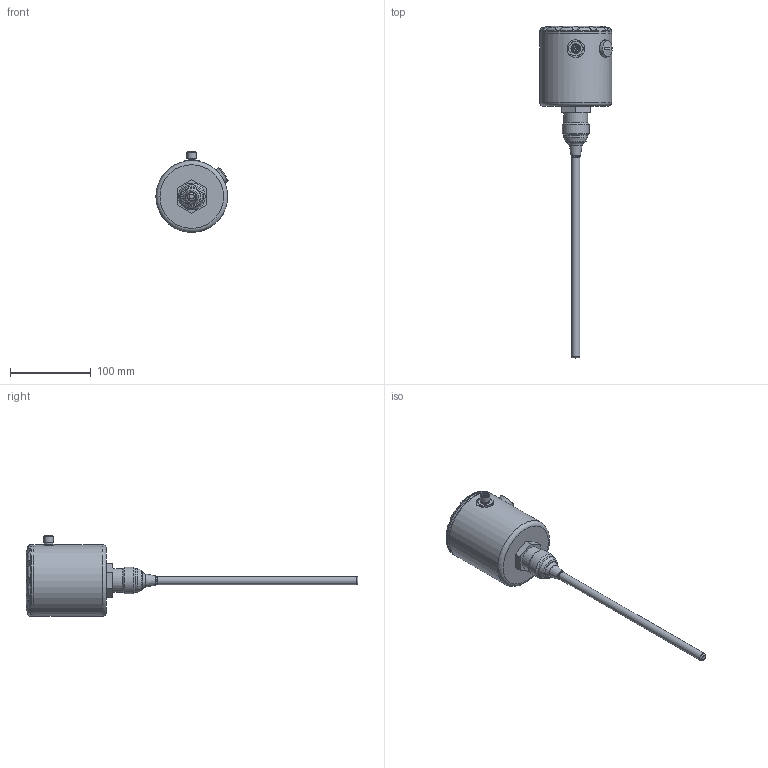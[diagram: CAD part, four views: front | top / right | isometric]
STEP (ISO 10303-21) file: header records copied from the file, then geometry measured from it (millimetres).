
FILE_DESCRIPTION( ( 'Unknown' ), '1' );
FILE_NAME( 'F:/U_Proces/Dokumentation/7000 3D Step filer/7000-/7000125/lsp050_025_2.stp', 'Unknown', ( 'Unknown' ), ( 'Unknown' ), 'PSStep 13.0', 'Unknown', ' ' );
FILE_SCHEMA( ( 'AUTOMOTIVE_DESIGN { 1 0 10303 214 1 1 1 1 }' ) );
Length unit declared in the file: millimetre
Products named in the file (1): PROP
Bounding box: 89.58 x 411.95 x 100.3 mm (x, y, z)
Surface area: 92378.5 mm2 (no closed solid volume)
Topology: 0 solids, 149 shells, 149 faces, 587 edges, 521 vertices
Faces by surface type: cylinder 55, plane 48, cone 24, torus 20, sphere 1, bspline 1
Full cylindrical faces by diameter (mm): 1.64 x4, 3 x2, 7 x1, 7.709 x1, 10 x3, 10.5 x1, 11.5 x1, 11.741 x1, 11.9 x1, 13.8 x1, 14 x1, 15 x2, 15.8 x1, 19.5 x1, 20 x1, 24.98 x1, 26 x2, 29.5 x2, 33.25 x1, 76 x1, 80 x1, 89 x2
Entity records: 8933 total; most frequent: CARTESIAN_POINT 3515, DIRECTION 940, ORIENTED_EDGE 490, EDGE_CURVE 490, VERTEX_POINT 490, AXIS2_PLACEMENT_3D 417, CIRCLE 268, FACE_BOUND 243
